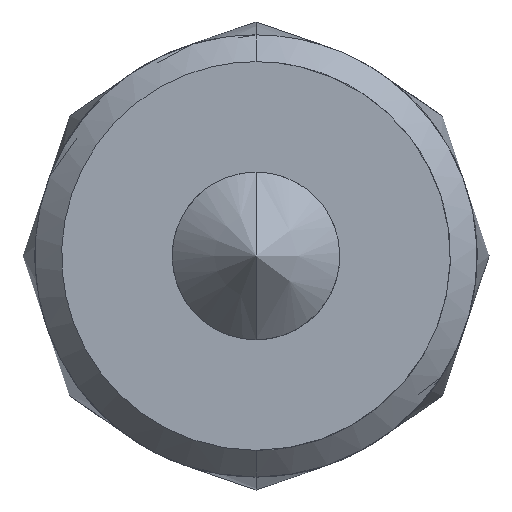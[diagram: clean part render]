
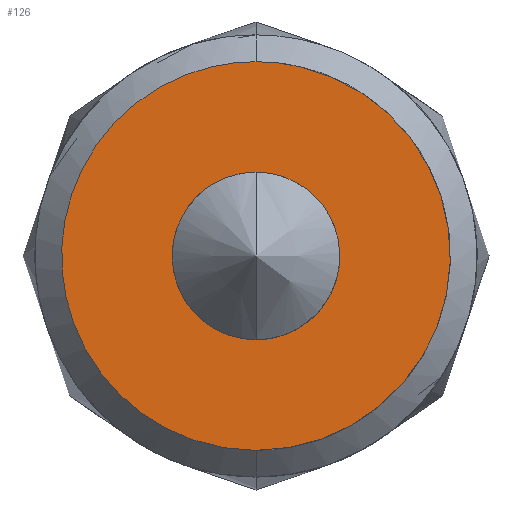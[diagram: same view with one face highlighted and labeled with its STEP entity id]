
A CAD part, left-side view. The second image highlights one B-rep face of the part: STEP entity #126.
In plain terms, the highlighted free-form (B-spline) face has degree [1, 1] with [2, 2] control points.
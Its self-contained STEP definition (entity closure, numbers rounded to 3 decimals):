
#30 = CARTESIAN_POINT ( 'NONE',  ( 0., 0., 0.737 ) ) ;
#37 = CARTESIAN_POINT ( 'NONE',  ( 0., -0.318, 0.084 ) ) ;
#38 = B_SPLINE_CURVE_WITH_KNOTS ( 'NONE', 3,
 ( #650, #1264, #1272, #895, #150, #1521, #142, #41, #634, #30 ),
 .UNSPECIFIED., .F., .F.,
 ( 4, 2, 2, 2, 4 ),
 ( 0., 0.785, 1.571, 2.356, 3.142 ),
 .UNSPECIFIED. ) ;
#42 = CARTESIAN_POINT ( 'NONE',  ( 0., 0.745, -0.745 ) ) ;
#41 = CARTESIAN_POINT ( 'NONE',  ( 0., -0.383, 0.659 ) ) ;
#45 = CARTESIAN_POINT ( 'NONE',  ( 0., 0.431, -0.737 ) ) ;
#73 = CARTESIAN_POINT ( 'NONE',  ( 0., 0., -0.318 ) ) ;
#79 = CARTESIAN_POINT ( 'NONE',  ( 0., 0., -0.318 ) ) ;
#114 = CARTESIAN_POINT ( 'NONE',  ( 0., 0.165, -0.284 ) ) ;
#126 = ADVANCED_FACE ( 'NONE', ( #767, #660 ), #927, .F. ) ;
#142 = CARTESIAN_POINT ( 'NONE',  ( 0., -0.659, 0.383 ) ) ;
#150 = CARTESIAN_POINT ( 'NONE',  ( 0., -0.737, -0.195 ) ) ;
#174 = CARTESIAN_POINT ( 'NONE',  ( 0., -0.284, 0.165 ) ) ;
#225 = VERTEX_POINT ( 'NONE', #592 ) ;
#238 = CARTESIAN_POINT ( 'NONE',  ( 0., 0., -0.318 ) ) ;
#271 = CARTESIAN_POINT ( 'NONE',  ( 0., -0.745, 0.745 ) ) ;
#331 = EDGE_CURVE ( 'NONE', #993, #1151, #1412, .T. ) ;
#398 = CARTESIAN_POINT ( 'NONE',  ( 0., 0.745, 0.745 ) ) ;
#426 = EDGE_LOOP ( 'NONE', ( #1092, #1559 ) ) ;
#442 = CARTESIAN_POINT ( 'NONE',  ( 0., -0.084, -0.318 ) ) ;
#487 = CARTESIAN_POINT ( 'NONE',  ( 0., 0.318, 0.084 ) ) ;
#553 = CARTESIAN_POINT ( 'NONE',  ( 0., -0.165, 0.284 ) ) ;
#592 = CARTESIAN_POINT ( 'NONE',  ( 0., 0., 0.318 ) ) ;
#606 = CARTESIAN_POINT ( 'NONE',  ( 0., 0.084, -0.318 ) ) ;
#634 = CARTESIAN_POINT ( 'NONE',  ( 0., -0.195, 0.737 ) ) ;
#650 = CARTESIAN_POINT ( 'NONE',  ( 0., 0., -0.737 ) ) ;
#660 = FACE_OUTER_BOUND ( 'NONE', #426, .T. ) ;
#665 = EDGE_CURVE ( 'NONE', #993, #1151, #38, .T. ) ;
#767 = FACE_BOUND ( 'NONE', #1545, .T. ) ;
#795 = CARTESIAN_POINT ( 'NONE',  ( 0., -0.284, -0.165 ) ) ;
#800 = CARTESIAN_POINT ( 'NONE',  ( 0., 0.084, 0.318 ) ) ;
#801 = CARTESIAN_POINT ( 'NONE',  ( 0., 0.737, -0.431 ) ) ;
#819 = CARTESIAN_POINT ( 'NONE',  ( 0., -0.318, -0.084 ) ) ;
#854 = ORIENTED_EDGE ( 'NONE', *, *, #1343, .T. ) ;
#895 = CARTESIAN_POINT ( 'NONE',  ( 0., -0.659, -0.383 ) ) ;
#916 = CARTESIAN_POINT ( 'NONE',  ( 0., 0., 0.318 ) ) ;
#918 = CARTESIAN_POINT ( 'NONE',  ( 0., 0.737, 0. ) ) ;
#927 = B_SPLINE_SURFACE_WITH_KNOTS ( 'NONE', 1, 1, ( 
 ( #271, #398 ),
 ( #1398, #42 ) ),
 .UNSPECIFIED., .F., .F., .F.,
 ( 2, 2 ),
 ( 2, 2 ),
 ( 0., 1. ),
 ( 0., 1. ),
 .UNSPECIFIED. ) ;
#941 = B_SPLINE_CURVE_WITH_KNOTS ( 'NONE', 3,
 ( #1146, #1278, #553, #174, #37, #819, #795, #1071, #442, #73 ),
 .UNSPECIFIED., .F., .F.,
 ( 4, 2, 2, 2, 4 ),
 ( 0., 0.785, 1.571, 2.356, 3.142 ),
 .UNSPECIFIED. ) ;
#993 = VERTEX_POINT ( 'NONE', #1280 ) ;
#1048 = ORIENTED_EDGE ( 'NONE', *, *, #1578, .T. ) ;
#1071 = CARTESIAN_POINT ( 'NONE',  ( 0., -0.165, -0.284 ) ) ;
#1092 = ORIENTED_EDGE ( 'NONE', *, *, #665, .T. ) ;
#1114 = CARTESIAN_POINT ( 'NONE',  ( 0., 0.284, -0.165 ) ) ;
#1146 = CARTESIAN_POINT ( 'NONE',  ( 0., 0., 0.318 ) ) ;
#1150 = CARTESIAN_POINT ( 'NONE',  ( 0., 0.165, 0.284 ) ) ;
#1151 = VERTEX_POINT ( 'NONE', #1538 ) ;
#1174 = VERTEX_POINT ( 'NONE', #238 ) ;
#1264 = CARTESIAN_POINT ( 'NONE',  ( 0., -0.195, -0.737 ) ) ;
#1272 = CARTESIAN_POINT ( 'NONE',  ( 0., -0.383, -0.659 ) ) ;
#1276 = CARTESIAN_POINT ( 'NONE',  ( 0., 0., -0.737 ) ) ;
#1278 = CARTESIAN_POINT ( 'NONE',  ( 0., -0.084, 0.318 ) ) ;
#1280 = CARTESIAN_POINT ( 'NONE',  ( 0., 0., -0.737 ) ) ;
#1292 = CARTESIAN_POINT ( 'NONE',  ( 0., 0.431, 0.737 ) ) ;
#1301 = CARTESIAN_POINT ( 'NONE',  ( 0., 0.284, 0.165 ) ) ;
#1302 = CARTESIAN_POINT ( 'NONE',  ( 0., 0.737, 0.431 ) ) ;
#1343 = EDGE_CURVE ( 'NONE', #225, #1174, #941, .T. ) ;
#1398 = CARTESIAN_POINT ( 'NONE',  ( 0., -0.745, -0.745 ) ) ;
#1412 =( BOUNDED_CURVE ( )  B_SPLINE_CURVE ( 3, ( #1276, #45, #801, #918, #1302, #1292, #1515 ),
 .UNSPECIFIED., .F., .T. ) 
 B_SPLINE_CURVE_WITH_KNOTS ( ( 4, 3, 4 ),
 ( -3.142, -1.571, 0. ),
 .UNSPECIFIED. ) 
 CURVE ( )  GEOMETRIC_REPRESENTATION_ITEM ( )  RATIONAL_B_SPLINE_CURVE ( ( 1., 0.805, 0.805, 1., 0.805, 0.805, 1. ) ) 
 REPRESENTATION_ITEM ( '' )  );
#1515 = CARTESIAN_POINT ( 'NONE',  ( 0., 0., 0.737 ) ) ;
#1521 = CARTESIAN_POINT ( 'NONE',  ( 0., -0.737, 0.195 ) ) ;
#1538 = CARTESIAN_POINT ( 'NONE',  ( 0., 0., 0.737 ) ) ;
#1545 = EDGE_LOOP ( 'NONE', ( #1048, #854 ) ) ;
#1559 = ORIENTED_EDGE ( 'NONE', *, *, #331, .F. ) ;
#1578 = EDGE_CURVE ( 'NONE', #1174, #225, #1612, .T. ) ;
#1609 = CARTESIAN_POINT ( 'NONE',  ( 0., 0.318, -0.084 ) ) ;
#1612 = B_SPLINE_CURVE_WITH_KNOTS ( 'NONE', 3,
 ( #79, #606, #114, #1114, #1609, #487, #1301, #1150, #800, #916 ),
 .UNSPECIFIED., .F., .F.,
 ( 4, 2, 2, 2, 4 ),
 ( 0., 0.785, 1.571, 2.356, 3.142 ),
 .UNSPECIFIED. ) ;
